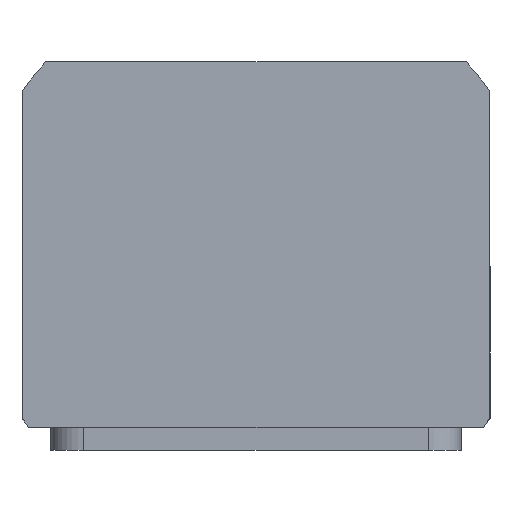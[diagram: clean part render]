
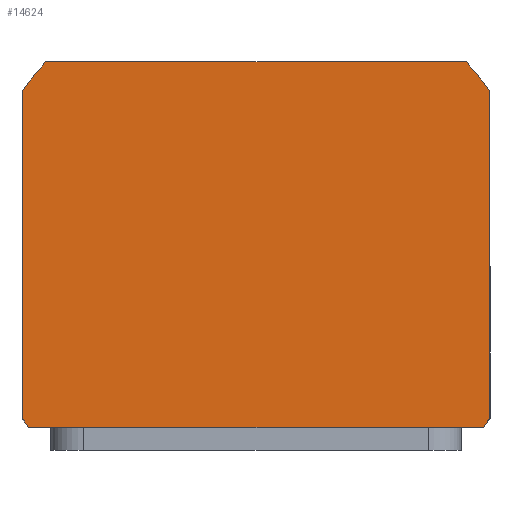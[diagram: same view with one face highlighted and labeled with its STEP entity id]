
A CAD part, top view. The second image highlights one B-rep face of the part: STEP entity #14624.
In plain terms, the highlighted planar face has unit normal (0, 0, 1) as drawn and (0, 0, -1) by its records, which use the part's own axes.
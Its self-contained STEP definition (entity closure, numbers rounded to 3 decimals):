
#40 = CARTESIAN_POINT ( 'NONE',  ( -57., 44.5, 0. ) ) ;
#200 = EDGE_CURVE ( 'NONE', #5334, #13589, #14774, .T. ) ;
#623 = ORIENTED_EDGE ( 'NONE', *, *, #3535, .F. ) ;
#1066 = VECTOR ( 'NONE', #11950, 1000. ) ;
#1153 = EDGE_CURVE ( 'NONE', #14938, #15229, #7054, .T. ) ;
#1154 = CARTESIAN_POINT ( 'NONE',  ( -55.374, 44.5, 0. ) ) ;
#1195 = CARTESIAN_POINT ( 'NONE',  ( 0., 0., 0. ) ) ;
#1589 = CARTESIAN_POINT ( 'NONE',  ( -51.198, -44.5, 0. ) ) ;
#1641 = CARTESIAN_POINT ( 'NONE',  ( 0., 2.5, 0. ) ) ;
#1858 = AXIS2_PLACEMENT_3D ( 'NONE', #12639, #12259, #5180 ) ;
#1907 = ORIENTED_EDGE ( 'NONE', *, *, #3641, .F. ) ;
#2010 = CARTESIAN_POINT ( 'NONE',  ( 0., 2.5, 0. ) ) ;
#2083 = CARTESIAN_POINT ( 'NONE',  ( -57., 44.5, 0. ) ) ;
#2266 = AXIS2_PLACEMENT_3D ( 'NONE', #1641, #11522, #3069 ) ;
#2461 = AXIS2_PLACEMENT_3D ( 'NONE', #15653, #7224, #17075 ) ;
#3058 = EDGE_CURVE ( 'NONE', #16053, #8957, #8582, .T. ) ;
#3063 = LINE ( 'NONE', #40, #14309 ) ;
#3069 = DIRECTION ( 'NONE',  ( 1., 0., 0. ) ) ;
#3391 = EDGE_CURVE ( 'NONE', #13589, #14938, #3957, .T. ) ;
#3421 = DIRECTION ( 'NONE',  ( 1., 0., 0. ) ) ;
#3535 = EDGE_CURVE ( 'NONE', #11936, #5334, #3063, .T. ) ;
#3641 = EDGE_CURVE ( 'NONE', #8957, #11936, #17188, .T. ) ;
#3957 = LINE ( 'NONE', #4133, #15185 ) ;
#4133 = CARTESIAN_POINT ( 'NONE',  ( -57., -44.5, 0. ) ) ;
#4146 = ORIENTED_EDGE ( 'NONE', *, *, #14980, .F. ) ;
#4377 = DIRECTION ( 'NONE',  ( 0., -1., 0. ) ) ;
#5070 = CIRCLE ( 'NONE', #11083, 69.5 ) ;
#5180 = DIRECTION ( 'NONE',  ( 1., 0., 0. ) ) ;
#5334 = VERTEX_POINT ( 'NONE', #7915 ) ;
#5546 = PLANE ( 'NONE',  #14772 ) ;
#5670 = ORIENTED_EDGE ( 'NONE', *, *, #3058, .F. ) ;
#6053 = VERTEX_POINT ( 'NONE', #6307 ) ;
#6307 = CARTESIAN_POINT ( 'NONE',  ( 57., 42.265, 0. ) ) ;
#7054 = CIRCLE ( 'NONE', #2461, 69.5 ) ;
#7224 = DIRECTION ( 'NONE',  ( 0., 0., 1. ) ) ;
#7744 = DIRECTION ( 'NONE',  ( 0., 1., 0. ) ) ;
#7915 = CARTESIAN_POINT ( 'NONE',  ( -57., -37.265, 0. ) ) ;
#8582 = LINE ( 'NONE', #2083, #1066 ) ;
#8768 = VECTOR ( 'NONE', #7744, 1000. ) ;
#8957 = VERTEX_POINT ( 'NONE', #1154 ) ;
#9774 = DIRECTION ( 'NONE',  ( 1., 0., 0. ) ) ;
#10095 = FACE_OUTER_BOUND ( 'NONE', #14670, .T. ) ;
#11083 = AXIS2_PLACEMENT_3D ( 'NONE', #2010, #11872, #3421 ) ;
#11335 = EDGE_CURVE ( 'NONE', #6053, #16053, #5070, .T. ) ;
#11522 = DIRECTION ( 'NONE',  ( 0., 0., 1. ) ) ;
#11872 = DIRECTION ( 'NONE',  ( 0., 0., 1. ) ) ;
#11936 = VERTEX_POINT ( 'NONE', #16406 ) ;
#11950 = DIRECTION ( 'NONE',  ( -1., 0., 0. ) ) ;
#12259 = DIRECTION ( 'NONE',  ( 0., 0., 1. ) ) ;
#12639 = CARTESIAN_POINT ( 'NONE',  ( 0., 2.5, 0. ) ) ;
#12713 = ORIENTED_EDGE ( 'NONE', *, *, #3391, .F. ) ;
#13589 = VERTEX_POINT ( 'NONE', #1589 ) ;
#14309 = VECTOR ( 'NONE', #4377, 1000. ) ;
#14624 = ADVANCED_FACE ( 'NONE', ( #10095 ), #5546, .F. ) ;
#14670 = EDGE_LOOP ( 'NONE', ( #16663, #4146, #16072, #12713, #16458, #623, #1907, #5670 ) ) ;
#14769 = CARTESIAN_POINT ( 'NONE',  ( 57., 44.5, 0. ) ) ;
#14772 = AXIS2_PLACEMENT_3D ( 'NONE', #1195, #18230, #9774 ) ;
#14774 = CIRCLE ( 'NONE', #1858, 69.5 ) ;
#14938 = VERTEX_POINT ( 'NONE', #17492 ) ;
#14980 = EDGE_CURVE ( 'NONE', #15229, #6053, #15375, .T. ) ;
#15185 = VECTOR ( 'NONE', #16760, 1000. ) ;
#15229 = VERTEX_POINT ( 'NONE', #16370 ) ;
#15375 = LINE ( 'NONE', #14769, #8768 ) ;
#15653 = CARTESIAN_POINT ( 'NONE',  ( 0., 2.5, 0. ) ) ;
#16053 = VERTEX_POINT ( 'NONE', #16382 ) ;
#16072 = ORIENTED_EDGE ( 'NONE', *, *, #1153, .F. ) ;
#16370 = CARTESIAN_POINT ( 'NONE',  ( 57., -37.265, 0. ) ) ;
#16382 = CARTESIAN_POINT ( 'NONE',  ( 55.374, 44.5, 0. ) ) ;
#16406 = CARTESIAN_POINT ( 'NONE',  ( -57., 42.265, 0. ) ) ;
#16458 = ORIENTED_EDGE ( 'NONE', *, *, #200, .F. ) ;
#16663 = ORIENTED_EDGE ( 'NONE', *, *, #11335, .F. ) ;
#16760 = DIRECTION ( 'NONE',  ( 1., 0., 0. ) ) ;
#17075 = DIRECTION ( 'NONE',  ( 1., 0., 0. ) ) ;
#17188 = CIRCLE ( 'NONE', #2266, 69.5 ) ;
#17492 = CARTESIAN_POINT ( 'NONE',  ( 51.198, -44.5, 0. ) ) ;
#18230 = DIRECTION ( 'NONE',  ( 0., 0., 1. ) ) ;
